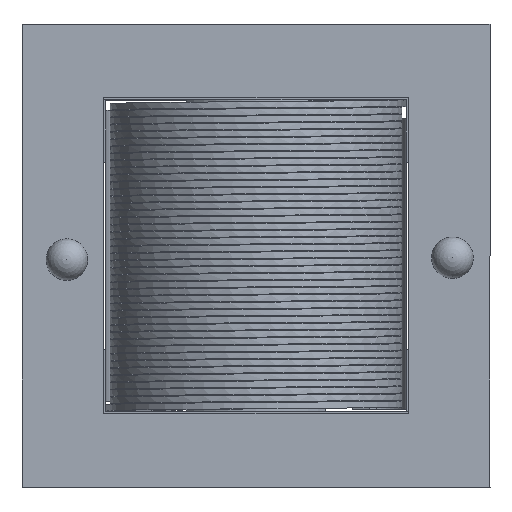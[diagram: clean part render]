
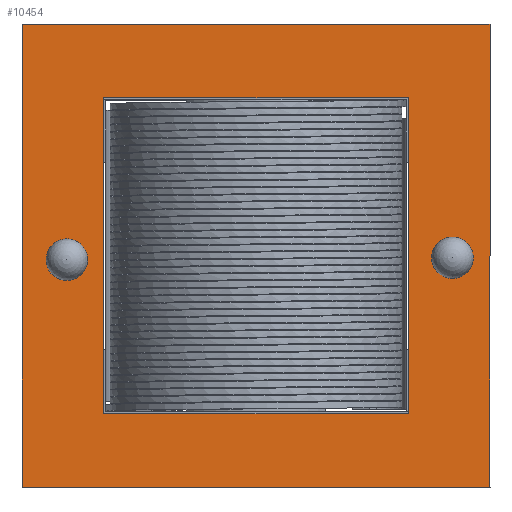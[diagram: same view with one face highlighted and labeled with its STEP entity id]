
A CAD part, top view. The second image highlights one B-rep face of the part: STEP entity #10454.
In plain terms, the highlighted planar face has unit normal (0, 0, 1).
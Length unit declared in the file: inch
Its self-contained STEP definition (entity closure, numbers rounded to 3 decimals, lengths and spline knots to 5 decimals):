
#132 = EDGE_CURVE ( 'NONE', #6950, #7249, #2691, .T. ) ;
#155 = FACE_OUTER_BOUND ( 'NONE', #6307, .T. ) ;
#232 = DIRECTION ( 'NONE',  ( 0., -1., 0. ) ) ;
#300 = CIRCLE ( 'NONE', #4270, 0.09843 ) ;
#352 = VERTEX_POINT ( 'NONE', #11754 ) ;
#415 = CARTESIAN_POINT ( 'NONE',  ( 2.05374, 1.0719, 0.75821 ) ) ;
#728 = ORIENTED_EDGE ( 'NONE', *, *, #11381, .F. ) ;
#730 = VERTEX_POINT ( 'NONE', #9480 ) ;
#904 = DIRECTION ( 'NONE',  ( 0., 0., -1. ) ) ;
#1064 = PLANE ( 'NONE',  #8115 ) ;
#1343 = CARTESIAN_POINT ( 'NONE',  ( 0.22556, 0.42961, 0.75821 ) ) ;
#1368 = EDGE_CURVE ( 'NONE', #730, #7847, #2985, .T. ) ;
#1555 = DIRECTION ( 'NONE',  ( 0., 1., 0. ) ) ;
#1647 = VECTOR ( 'NONE', #10640, 39.37008 ) ;
#1672 = DIRECTION ( 'NONE',  ( -1., 0., 0. ) ) ;
#1694 = DIRECTION ( 'NONE',  ( 0., 0., 1. ) ) ;
#1869 = FACE_BOUND ( 'NONE', #3281, .T. ) ;
#1920 = ORIENTED_EDGE ( 'NONE', *, *, #8551, .T. ) ;
#1972 = EDGE_CURVE ( 'NONE', #8442, #730, #8440, .T. ) ;
#2141 = ORIENTED_EDGE ( 'NONE', *, *, #1972, .T. ) ;
#2226 = EDGE_CURVE ( 'NONE', #3684, #7386, #10369, .T. ) ;
#2395 = VERTEX_POINT ( 'NONE', #8536 ) ;
#2550 = EDGE_CURVE ( 'NONE', #4596, #9841, #3031, .T. ) ;
#2551 = CARTESIAN_POINT ( 'NONE',  ( 0.22559, 0.73489, 0.75821 ) ) ;
#2691 = CIRCLE ( 'NONE', #8581, 0.09843 ) ;
#2756 = DIRECTION ( 'NONE',  ( 0., 0., 1. ) ) ;
#2839 = EDGE_LOOP ( 'NONE', ( #7964, #728 ) ) ;
#2912 = ORIENTED_EDGE ( 'NONE', *, *, #11366, .F. ) ;
#2926 = CARTESIAN_POINT ( 'NONE',  ( 0.94626, -0.01314, 0.75821 ) ) ;
#2956 = CARTESIAN_POINT ( 'NONE',  ( 0.22556, 0.73489, 0.75821 ) ) ;
#2985 = B_SPLINE_CURVE_WITH_KNOTS ( 'NONE', 3,
 ( #5044, #6859, #8876, #5912 ),
 .UNSPECIFIED., .F., .F.,
 ( 4, 4 ),
 ( 0.20405, 0.79595 ),
 .UNSPECIFIED. ) ;
#3006 = ORIENTED_EDGE ( 'NONE', *, *, #2550, .F. ) ;
#3031 = LINE ( 'NONE', #10410, #1647 ) ;
#3261 = CARTESIAN_POINT ( 'NONE',  ( 1.66697, -0.4559, 0.75821 ) ) ;
#3281 = EDGE_LOOP ( 'NONE', ( #11052, #1920, #10274, #3632, #10324, #2141, #9367, #12665 ) ) ;
#3352 = CIRCLE ( 'NONE', #4840, 0.09843 ) ;
#3437 = CARTESIAN_POINT ( 'NONE',  ( 0.22552, 0.13444, 0.75821 ) ) ;
#3542 = DIRECTION ( 'NONE',  ( -1., 0., 0. ) ) ;
#3632 = ORIENTED_EDGE ( 'NONE', *, *, #2226, .T. ) ;
#3684 = VERTEX_POINT ( 'NONE', #1343 ) ;
#3815 = VECTOR ( 'NONE', #4648, 39.37008 ) ;
#3860 = CARTESIAN_POINT ( 'NONE',  ( -0.16122, -1.10802, 0.75821 ) ) ;
#4134 = CARTESIAN_POINT ( 'NONE',  ( 1.27697, -0.76117, 0.75821 ) ) ;
#4135 = LINE ( 'NONE', #5342, #10964 ) ;
#4211 = LINE ( 'NONE', #415, #12264 ) ;
#4270 = AXIS2_PLACEMENT_3D ( 'NONE', #5518, #5647, #1672 ) ;
#4276 = LINE ( 'NONE', #11520, #3815 ) ;
#4306 = VERTEX_POINT ( 'NONE', #6821 ) ;
#4316 = VERTEX_POINT ( 'NONE', #8852 ) ;
#4596 = VERTEX_POINT ( 'NONE', #10209 ) ;
#4648 = DIRECTION ( 'NONE',  ( 0., 1., 0. ) ) ;
#4662 = CARTESIAN_POINT ( 'NONE',  ( 0.0512, -0.03141, 0.75821 ) ) ;
#4812 = VECTOR ( 'NONE', #1555, 39.37008 ) ;
#4840 = AXIS2_PLACEMENT_3D ( 'NONE', #4662, #9503, #3542 ) ;
#4861 = FACE_BOUND ( 'NONE', #8024, .T. ) ;
#4909 = CARTESIAN_POINT ( 'NONE',  ( 0.22556, -0.4559, 0.75821 ) ) ;
#5006 = ORIENTED_EDGE ( 'NONE', *, *, #6304, .F. ) ;
#5044 = CARTESIAN_POINT ( 'NONE',  ( 1.66697, 0.42961, 0.75821 ) ) ;
#5342 = CARTESIAN_POINT ( 'NONE',  ( 2.0439, 1.08174, 0.75821 ) ) ;
#5500 = CARTESIAN_POINT ( 'NONE',  ( 0.61555, 0.73489, 0.75821 ) ) ;
#5518 = CARTESIAN_POINT ( 'NONE',  ( 1.87612, -0.02263, 0.75821 ) ) ;
#5647 = DIRECTION ( 'NONE',  ( 0., 0., 1. ) ) ;
#5693 = ORIENTED_EDGE ( 'NONE', *, *, #6661, .F. ) ;
#5739 = CARTESIAN_POINT ( 'NONE',  ( 0.14962, -0.03141, 0.75821 ) ) ;
#5912 = CARTESIAN_POINT ( 'NONE',  ( 1.66697, -0.4559, 0.75821 ) ) ;
#6209 = VECTOR ( 'NONE', #8266, 39.37008 ) ;
#6212 = CARTESIAN_POINT ( 'NONE',  ( 1.66693, 0.73489, 0.75821 ) ) ;
#6304 = EDGE_CURVE ( 'NONE', #8480, #4306, #4135, .T. ) ;
#6307 = EDGE_LOOP ( 'NONE', ( #12902, #3006, #2912, #5006 ) ) ;
#6309 = VERTEX_POINT ( 'NONE', #9262 ) ;
#6376 = LINE ( 'NONE', #7831, #9329 ) ;
#6386 = DIRECTION ( 'NONE',  ( 1., 0., 0. ) ) ;
#6389 = VECTOR ( 'NONE', #232, 39.37008 ) ;
#6625 = CARTESIAN_POINT ( 'NONE',  ( 1.66697, 0.73489, 0.75821 ) ) ;
#6661 = EDGE_CURVE ( 'NONE', #7249, #6950, #3352, .T. ) ;
#6683 = CARTESIAN_POINT ( 'NONE',  ( -0.04723, -0.03141, 0.75821 ) ) ;
#6718 = DIRECTION ( 'NONE',  ( -1., 0., 0. ) ) ;
#6821 = CARTESIAN_POINT ( 'NONE',  ( 2.05374, 1.08174, 0.75821 ) ) ;
#6859 = CARTESIAN_POINT ( 'NONE',  ( 1.667, 0.13444, 0.75821 ) ) ;
#6935 = ORIENTED_EDGE ( 'NONE', *, *, #132, .F. ) ;
#6950 = VERTEX_POINT ( 'NONE', #6683 ) ;
#7047 = DIRECTION ( 'NONE',  ( -1., 0., 0. ) ) ;
#7114 = CARTESIAN_POINT ( 'NONE',  ( 1.66693, -0.76117, 0.75821 ) ) ;
#7249 = VERTEX_POINT ( 'NONE', #5739 ) ;
#7342 = DIRECTION ( 'NONE',  ( 0., -1., 0. ) ) ;
#7386 = VERTEX_POINT ( 'NONE', #2956 ) ;
#7680 = AXIS2_PLACEMENT_3D ( 'NONE', #8590, #1694, #8684 ) ;
#7831 = CARTESIAN_POINT ( 'NONE',  ( -0.16122, 1.0719, 0.75821 ) ) ;
#7847 = VERTEX_POINT ( 'NONE', #3261 ) ;
#7875 = DIRECTION ( 'NONE',  ( -1., 0., 0. ) ) ;
#7964 = ORIENTED_EDGE ( 'NONE', *, *, #8673, .F. ) ;
#8024 = EDGE_LOOP ( 'NONE', ( #6935, #5693 ) ) ;
#8115 = AXIS2_PLACEMENT_3D ( 'NONE', #2926, #904, #7875 ) ;
#8176 = EDGE_CURVE ( 'NONE', #7386, #8442, #12198, .T. ) ;
#8177 = EDGE_CURVE ( 'NONE', #12174, #3684, #11145, .T. ) ;
#8266 = DIRECTION ( 'NONE',  ( 0., -1., 0. ) ) ;
#8424 = CARTESIAN_POINT ( 'NONE',  ( 0.22556, -0.4559, 0.75821 ) ) ;
#8440 = LINE ( 'NONE', #6212, #6389 ) ;
#8442 = VERTEX_POINT ( 'NONE', #6625 ) ;
#8480 = VERTEX_POINT ( 'NONE', #10611 ) ;
#8536 = CARTESIAN_POINT ( 'NONE',  ( 1.66697, -0.76117, 0.75821 ) ) ;
#8551 = EDGE_CURVE ( 'NONE', #352, #12174, #4276, .T. ) ;
#8581 = AXIS2_PLACEMENT_3D ( 'NONE', #11709, #2756, #6718 ) ;
#8590 = CARTESIAN_POINT ( 'NONE',  ( 1.87612, -0.02263, 0.75821 ) ) ;
#8673 = EDGE_CURVE ( 'NONE', #6309, #4316, #11411, .T. ) ;
#8684 = DIRECTION ( 'NONE',  ( -1., 0., 0. ) ) ;
#8852 = CARTESIAN_POINT ( 'NONE',  ( 1.97454, -0.02263, 0.75821 ) ) ;
#8876 = CARTESIAN_POINT ( 'NONE',  ( 1.667, -0.16073, 0.75821 ) ) ;
#9104 = LINE ( 'NONE', #4134, #10325 ) ;
#9127 = EDGE_CURVE ( 'NONE', #2395, #352, #9104, .T. ) ;
#9262 = CARTESIAN_POINT ( 'NONE',  ( 1.77769, -0.02263, 0.75821 ) ) ;
#9280 = VECTOR ( 'NONE', #12250, 39.37008 ) ;
#9329 = VECTOR ( 'NONE', #11761, 39.37008 ) ;
#9367 = ORIENTED_EDGE ( 'NONE', *, *, #1368, .T. ) ;
#9408 = CARTESIAN_POINT ( 'NONE',  ( 0.22552, -0.16073, 0.75821 ) ) ;
#9480 = CARTESIAN_POINT ( 'NONE',  ( 1.66697, 0.42961, 0.75821 ) ) ;
#9503 = DIRECTION ( 'NONE',  ( 0., 0., 1. ) ) ;
#9841 = VERTEX_POINT ( 'NONE', #3860 ) ;
#9976 = FACE_BOUND ( 'NONE', #2839, .T. ) ;
#10209 = CARTESIAN_POINT ( 'NONE',  ( 2.05374, -1.10802, 0.75821 ) ) ;
#10274 = ORIENTED_EDGE ( 'NONE', *, *, #8177, .T. ) ;
#10324 = ORIENTED_EDGE ( 'NONE', *, *, #8176, .T. ) ;
#10325 = VECTOR ( 'NONE', #7047, 39.37008 ) ;
#10369 = LINE ( 'NONE', #2551, #4812 ) ;
#10410 = CARTESIAN_POINT ( 'NONE',  ( 2.0439, -1.10802, 0.75821 ) ) ;
#10454 = ADVANCED_FACE ( 'NONE', ( #9976, #4861, #155, #1869 ), #1064, .F. ) ;
#10611 = CARTESIAN_POINT ( 'NONE',  ( -0.16122, 1.08174, 0.75821 ) ) ;
#10640 = DIRECTION ( 'NONE',  ( -1., 0., 0. ) ) ;
#10964 = VECTOR ( 'NONE', #6386, 39.37008 ) ;
#11052 = ORIENTED_EDGE ( 'NONE', *, *, #9127, .T. ) ;
#11145 = B_SPLINE_CURVE_WITH_KNOTS ( 'NONE', 3,
 ( #8424, #9408, #3437, #11392 ),
 .UNSPECIFIED., .F., .F.,
 ( 4, 4 ),
 ( 0.20405, 0.79595 ),
 .UNSPECIFIED. ) ;
#11366 = EDGE_CURVE ( 'NONE', #4306, #4596, #4211, .T. ) ;
#11381 = EDGE_CURVE ( 'NONE', #4316, #6309, #300, .T. ) ;
#11392 = CARTESIAN_POINT ( 'NONE',  ( 0.22556, 0.42961, 0.75821 ) ) ;
#11411 = CIRCLE ( 'NONE', #7680, 0.09843 ) ;
#11520 = CARTESIAN_POINT ( 'NONE',  ( 0.22559, -0.76117, 0.75821 ) ) ;
#11709 = CARTESIAN_POINT ( 'NONE',  ( 0.0512, -0.03141, 0.75821 ) ) ;
#11754 = CARTESIAN_POINT ( 'NONE',  ( 0.22556, -0.76117, 0.75821 ) ) ;
#11761 = DIRECTION ( 'NONE',  ( 0., 1., 0. ) ) ;
#11927 = EDGE_CURVE ( 'NONE', #9841, #8480, #6376, .T. ) ;
#12174 = VERTEX_POINT ( 'NONE', #4909 ) ;
#12198 = LINE ( 'NONE', #5500, #9280 ) ;
#12250 = DIRECTION ( 'NONE',  ( 1., 0., 0. ) ) ;
#12264 = VECTOR ( 'NONE', #7342, 39.37008 ) ;
#12545 = LINE ( 'NONE', #7114, #6209 ) ;
#12634 = EDGE_CURVE ( 'NONE', #7847, #2395, #12545, .T. ) ;
#12665 = ORIENTED_EDGE ( 'NONE', *, *, #12634, .T. ) ;
#12902 = ORIENTED_EDGE ( 'NONE', *, *, #11927, .F. ) ;
